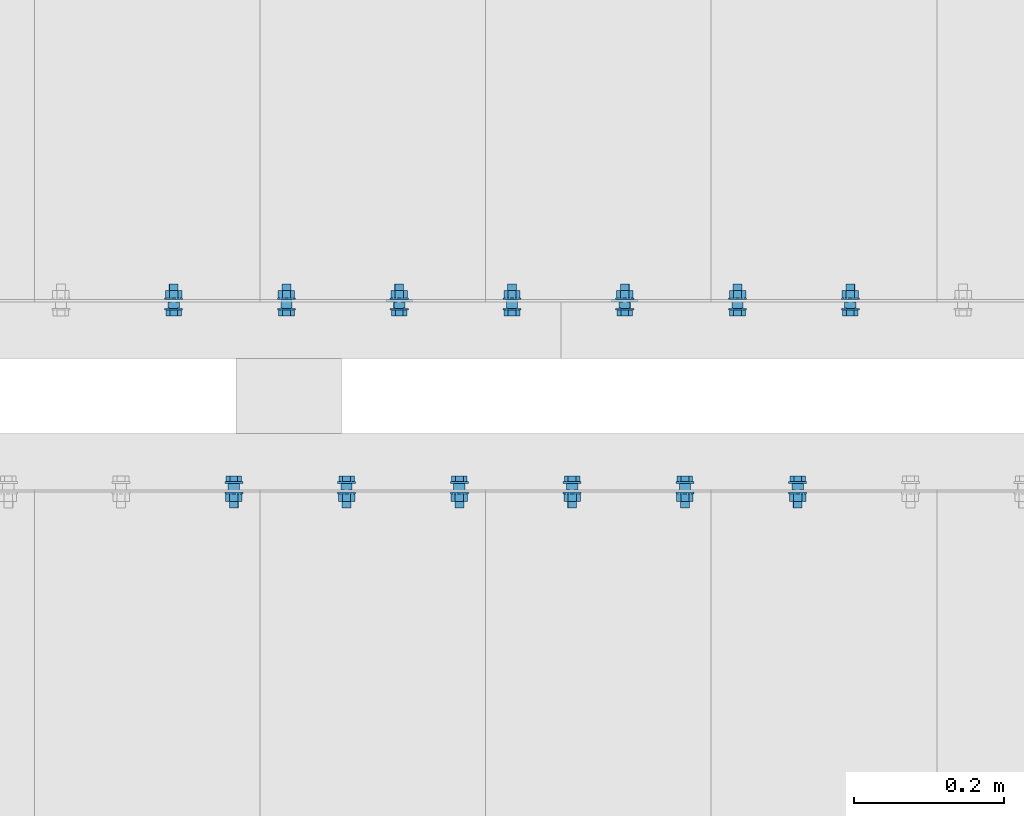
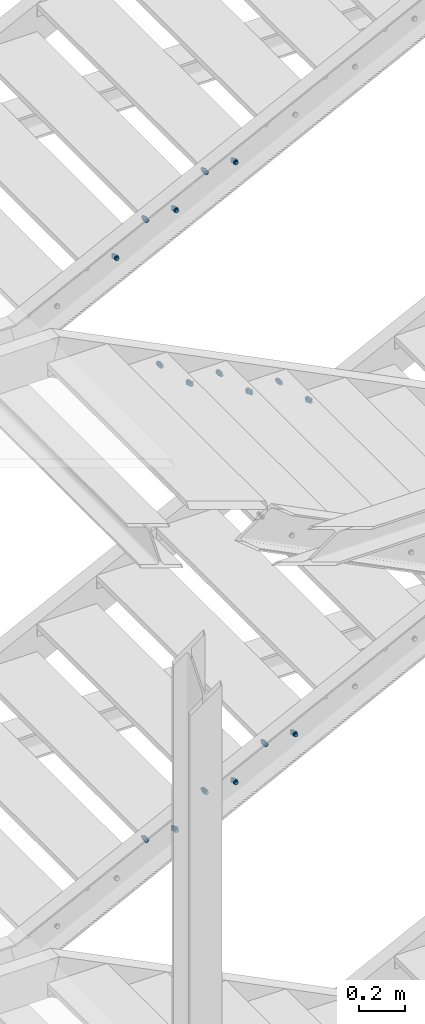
# One storey, part 102 of 132: 17 mechanical fasteners, 10 elements without a shape of their own.
"""IFC2X3 building model written with IfcOpenShell, lengths in millimetres."""

from ifc_helpers import new_model, si_unit, frame, frame_2d, origin_with_axes, origin_2d_with_axis, place, context, subcontext, project, spatial, polyline, circle_curve, parameter, trimmed, segment, composite_curve, circle, outline, extrude, source, transform, mapped, material, type_object, element, aggregate, save


model = new_model("IFC2X3")

# Units and contexts
model_context = context("Model", 3, precision=1e-05, world=origin_with_axes())
body_context = subcontext(model_context, "Body", "Model", "MODEL_VIEW")
ifc_project = project(units=[si_unit("LENGTHUNIT", "METRE", prefix="MILLI"), si_unit("AREAUNIT", "SQUARE_METRE"), si_unit("VOLUMEUNIT", "CUBIC_METRE"), si_unit("MASSUNIT", "GRAM", prefix="KILO"), si_unit("TIMEUNIT", "SECOND"), si_unit("PLANEANGLEUNIT", "RADIAN"), si_unit("SOLIDANGLEUNIT", "STERADIAN"), si_unit("THERMODYNAMICTEMPERATUREUNIT", "DEGREE_CELSIUS"), si_unit("LUMINOUSINTENSITYUNIT", "LUMEN")], contexts=[model_context])

# Site, building, storey
site_placement = place(None, origin_with_axes())
site = spatial("IfcSite", under=ifc_project, at=site_placement, Name="Budowa", CompositionType="ELEMENT")
building_placement = place(site_placement, origin_with_axes())
building = spatial("IfcBuilding", under=site, at=building_placement, Name="Undefined", CompositionType="ELEMENT")
storey_placement = place(building_placement, origin_with_axes())
storey = spatial("IfcBuildingStorey", under=building, at=storey_placement, Name="Undefined", CompositionType="ELEMENT", Elevation=0.0)

# Assembly, mechanical fastener
assembly_1_placement = place(storey_placement, origin_with_axes())
assembly_1 = element("IfcElementAssembly", 1, at=assembly_1_placement, inside=storey, Name="Steel Assembly", AssemblyPlace="NOTDEFINED", PredefinedType="RIGID_FRAME")
ifc_material = material(Name="Undefined")
discrete_accessory_type = type_object("IfcDiscreteAccessoryType", Name="Bolt assembly")
shared_shape_1 = source(origin_with_axes(), body_context, "Body", "SweptSolid", [
    extrude(circle(Radius=7.5, at=origin_2d_with_axis()), frame((0.0, -8.40000000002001, 0.0), z_axis=(0.0, 1.0, 0.0), x_axis=(1.0, 0.0, 0.0)), (0.0, 0.0, 1.0), 8.5),
    extrude(circle(Radius=7.5, at=origin_2d_with_axis()), frame((0.0, -0.1, 0.0), z_axis=(0.0, 1.0, 0.0), x_axis=(1.0, 0.0, 0.0)), (0.0, 0.0, 1.0), 3.1),
    extrude(outline(polyline([(10.39230484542, 0.0), (5.19615242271, 9.00000000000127), (-5.19615242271, 9.00000000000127), (-10.39230484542, 0.0), (-5.19615242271, -9.00000000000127), (5.19615242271, -9.00000000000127), (10.39230484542, 0.0)])), frame((0.0, -18.50000000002, 0.0), z_axis=(0.0, 1.0, 0.0), x_axis=(1.0, 0.0, 0.0)), (0.0, 0.0, 1.0), 7.5),
    extrude(circle(Radius=6.0, at=origin_2d_with_axis()), frame((0.0, -11.00000000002, 0.0), z_axis=(0.0, 1.0, 0.0), x_axis=(1.0, 0.0, 0.0)), (0.0, 0.0, 1.0), 35.0),
    extrude(circle(Radius=12.0, at=origin_2d_with_axis()), frame((0.0, -11.00000000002, 0.0), z_axis=(0.0, 1.0, 0.0), x_axis=(1.0, 0.0, 0.0)), (0.0, 0.0, 1.0), 2.5),
    extrude(circle(Radius=12.0, at=origin_2d_with_axis()), frame((0.0, 3.0, 0.0), z_axis=(0.0, 1.0, 0.0), x_axis=(1.0, 0.0, 0.0)), (0.0, 0.0, 1.0), 2.5),
    extrude(outline(polyline([(10.96965511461, 0.0), (5.484827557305, 9.50000000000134), (-5.484827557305, 9.50000000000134), (-10.96965511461, 0.0), (-5.484827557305, -9.50000000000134), (5.484827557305, -9.50000000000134), (10.96965511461, 0.0)])), frame((0.0, 5.5, 0.0), z_axis=(0.0, 1.0, 0.0), x_axis=(1.0, 0.0, 0.0)), (0.0, 0.0, 1.0), 10.0),
])
mechanical_fastener_1_placement = place(assembly_1_placement, frame((-2920.00000008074, 9525.0000000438, 12799.9999999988), z_axis=(0.0, 0.0, -1.0), x_axis=(-1.0, 0.0, 0.0)))
mechanical_fastener_1 = element("IfcMechanicalFastener", 2, at=mechanical_fastener_1_placement, type_object=discrete_accessory_type, material=ifc_material, Name="Bolt assembly", NominalDiameter=12.0, NominalLength=35.0, context=body_context, shape_type="MappedRepresentation", body=[
    mapped(shared_shape_1, transform((265.0, 0.0, 25.0))),
])

assembly_2_placement = place(storey_placement, origin_with_axes())
assembly_2 = element("IfcElementAssembly", 3, at=assembly_2_placement, inside=storey, Name="Steel Assembly", AssemblyPlace="NOTDEFINED", PredefinedType="RIGID_FRAME")
mechanical_fastener_2_placement = place(assembly_2_placement, frame((-3220.00000008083, 9525.0000000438, 12649.9999999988), z_axis=(0.0, 0.0, -1.0), x_axis=(-1.0, 0.0, 0.0)))
mechanical_fastener_2 = element("IfcMechanicalFastener", 4, at=mechanical_fastener_2_placement, type_object=discrete_accessory_type, material=ifc_material, Name="Bolt assembly", NominalDiameter=12.0, NominalLength=35.0, context=body_context, shape_type="MappedRepresentation", body=[
    mapped(shared_shape_1, transform((265.0, 0.0, 25.0))),
])

assembly_3_placement = place(storey_placement, origin_with_axes())
assembly_3 = element("IfcElementAssembly", 5, at=assembly_3_placement, inside=storey, Name="Steel Assembly", AssemblyPlace="NOTDEFINED", PredefinedType="RIGID_FRAME")
mechanical_fastener_3_placement = place(assembly_3_placement, frame((-3820.00000007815, 9275.00000004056, 12050.0000000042), z_axis=(0.0, 0.0, -1.0), x_axis=(1.0, 0.0, 0.0)))
mechanical_fastener_3 = element("IfcMechanicalFastener", 6, at=mechanical_fastener_3_placement, type_object=discrete_accessory_type, material=ifc_material, Name="Bolt assembly", NominalDiameter=12.0, NominalLength=35.0, context=body_context, shape_type="MappedRepresentation", body=[
    mapped(shared_shape_1, transform((265.0, 0.0, 25.0))),
])
aggregate(assembly_3, [mechanical_fastener_3])

assembly_4_placement = place(storey_placement, origin_with_axes())
assembly_4 = element("IfcElementAssembly", 7, at=assembly_4_placement, inside=storey, Name="Steel Assembly", AssemblyPlace="NOTDEFINED", PredefinedType="RIGID_FRAME")
mechanical_fastener_4_placement = place(assembly_4_placement, frame((-3520.00000007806, 9275.00000004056, 11900.0000000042), z_axis=(0.0, 0.0, -1.0), x_axis=(1.0, 0.0, 0.0)))
mechanical_fastener_4 = element("IfcMechanicalFastener", 8, at=mechanical_fastener_4_placement, type_object=discrete_accessory_type, material=ifc_material, Name="Bolt assembly", NominalDiameter=12.0, NominalLength=35.0, context=body_context, shape_type="MappedRepresentation", body=[
    mapped(shared_shape_1, transform((265.0, 0.0, 25.0))),
])

assembly_5_placement = place(storey_placement, origin_with_axes())
assembly_5 = element("IfcElementAssembly", 9, at=assembly_5_placement, inside=storey, Name="Steel Assembly", AssemblyPlace="NOTDEFINED", PredefinedType="RIGID_FRAME")
mechanical_fastener_5_placement = place(assembly_5_placement, frame((-3220.00000007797, 9275.00000004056, 11750.0000000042), z_axis=(0.0, 0.0, -1.0), x_axis=(1.0, 0.0, 0.0)))
mechanical_fastener_5 = element("IfcMechanicalFastener", 10, at=mechanical_fastener_5_placement, type_object=discrete_accessory_type, material=ifc_material, Name="Bolt assembly", NominalDiameter=12.0, NominalLength=35.0, context=body_context, shape_type="MappedRepresentation", body=[
    mapped(shared_shape_1, transform((265.0, 0.0, 25.0))),
])

assembly_6_placement = place(storey_placement, origin_with_axes())
assembly_6 = element("IfcElementAssembly", 11, at=assembly_6_placement, inside=storey, Name="Steel Assembly", AssemblyPlace="NOTDEFINED", PredefinedType="RIGID_FRAME")
mechanical_fastener_6_placement = place(assembly_6_placement, frame((-2620.00000008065, 9525.0000000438, 9649.99999999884), z_axis=(0.0, 0.0, -1.0), x_axis=(-1.0, 0.0, 0.0)))
mechanical_fastener_6 = element("IfcMechanicalFastener", 12, at=mechanical_fastener_6_placement, type_object=discrete_accessory_type, material=ifc_material, Name="Bolt assembly", NominalDiameter=12.0, NominalLength=35.0, context=body_context, shape_type="MappedRepresentation", body=[
    mapped(shared_shape_1, transform((265.0, 0.0, 25.0))),
])

assembly_7_placement = place(storey_placement, origin_with_axes())
assembly_7 = element("IfcElementAssembly", 13, at=assembly_7_placement, inside=storey, Name="Steel Assembly", AssemblyPlace="NOTDEFINED", PredefinedType="RIGID_FRAME")
mechanical_fastener_7_placement = place(assembly_7_placement, frame((-2920.00000008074, 9525.0000000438, 9499.99999999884), z_axis=(0.0, 0.0, -1.0), x_axis=(-1.0, 0.0, 0.0)))
mechanical_fastener_7 = element("IfcMechanicalFastener", 14, at=mechanical_fastener_7_placement, type_object=discrete_accessory_type, material=ifc_material, Name="Bolt assembly", NominalDiameter=12.0, NominalLength=35.0, context=body_context, shape_type="MappedRepresentation", body=[
    mapped(shared_shape_1, transform((265.0, 0.0, 25.0))),
])

assembly_8_placement = place(storey_placement, origin_with_axes())
assembly_8 = element("IfcElementAssembly", 15, at=assembly_8_placement, inside=storey, Name="Steel Assembly", AssemblyPlace="NOTDEFINED", PredefinedType="RIGID_FRAME")
mechanical_fastener_8_placement = place(assembly_8_placement, frame((-3220.00000008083, 9525.0000000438, 9349.99999999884), z_axis=(0.0, 0.0, -1.0), x_axis=(-1.0, 0.0, 0.0)))
mechanical_fastener_8 = element("IfcMechanicalFastener", 16, at=mechanical_fastener_8_placement, type_object=discrete_accessory_type, material=ifc_material, Name="Bolt assembly", NominalDiameter=12.0, NominalLength=35.0, context=body_context, shape_type="MappedRepresentation", body=[
    mapped(shared_shape_1, transform((265.0, 0.0, 25.0))),
])

# Mechanical fastener
shared_shape_2 = source(origin_with_axes(), body_context, "Body", "SweptSolid", [
    extrude(circle(Radius=7.5, at=origin_2d_with_axis()), frame((0.0, -8.40000000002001, 0.0), z_axis=(0.0, 1.0, 0.0), x_axis=(1.0, 0.0, 0.0)), (0.0, 0.0, 1.0), 8.5),
    extrude(outline(composite_curve([segment(polyline([(-10.0, 7.5), (10.0, 7.5)]), True, "CONTINUOUS"), segment(trimmed(circle_curve(frame_2d((10.0, 0.0), x_axis=(0.0, 1.0)), 7.5), [parameter(0.0)], [parameter(3.14159265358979)], False, "PARAMETER"), True, "CONTINUOUS"), segment(polyline([(10.0, -7.5), (-10.0, -7.5)]), True, "CONTINUOUS"), segment(trimmed(circle_curve(frame_2d((-10.0, 0.0), x_axis=(0.0, -1.0)), 7.5), [parameter(0.0)], [parameter(3.14159265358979)], False, "PARAMETER"), True, "DISCONTINUOUS")], self_intersect=False)), frame((0.0, -0.1, 0.0), z_axis=(0.0, 1.0, 0.0), x_axis=(1.0, 0.0, 0.0)), (0.0, 0.0, 1.0), 3.1),
    extrude(outline(polyline([(10.39230484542, 0.0), (5.19615242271, 9.00000000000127), (-5.19615242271, 9.00000000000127), (-10.39230484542, 0.0), (-5.19615242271, -9.00000000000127), (5.19615242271, -9.00000000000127), (10.39230484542, 0.0)])), frame((0.0, -18.50000000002, 0.0), z_axis=(0.0, 1.0, 0.0), x_axis=(1.0, 0.0, 0.0)), (0.0, 0.0, 1.0), 7.5),
    extrude(circle(Radius=6.0, at=origin_2d_with_axis()), frame((0.0, -11.00000000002, 0.0), z_axis=(0.0, 1.0, 0.0), x_axis=(1.0, 0.0, 0.0)), (0.0, 0.0, 1.0), 35.0),
    extrude(circle(Radius=12.0, at=origin_2d_with_axis()), frame((0.0, -11.00000000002, 0.0), z_axis=(0.0, 1.0, 0.0), x_axis=(1.0, 0.0, 0.0)), (0.0, 0.0, 1.0), 2.5),
    extrude(circle(Radius=12.0, at=origin_2d_with_axis()), frame((0.0, 3.0, 0.0), z_axis=(0.0, 1.0, 0.0), x_axis=(1.0, 0.0, 0.0)), (0.0, 0.0, 1.0), 2.5),
    extrude(outline(polyline([(10.96965511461, 0.0), (5.484827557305, 9.50000000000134), (-5.484827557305, 9.50000000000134), (-10.96965511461, 0.0), (-5.484827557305, -9.50000000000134), (5.484827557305, -9.50000000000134), (10.96965511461, 0.0)])), frame((0.0, 5.5, 0.0), z_axis=(0.0, 1.0, 0.0), x_axis=(1.0, 0.0, 0.0)), (0.0, 0.0, 1.0), 10.0),
])
mechanical_fastener_9_placement = place(assembly_1_placement, frame((-2920.00000008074, 9525.0000000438, 12799.9999999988), z_axis=(0.0, 0.0, -1.0), x_axis=(-1.0, 0.0, 0.0)))
mechanical_fastener_9 = element("IfcMechanicalFastener", 17, at=mechanical_fastener_9_placement, type_object=discrete_accessory_type, material=ifc_material, Name="Bolt assembly", NominalDiameter=12.0, NominalLength=35.0, context=body_context, shape_type="MappedRepresentation", body=[
    mapped(shared_shape_2, transform((115.0, 0.0, 25.0))),
])

aggregate(assembly_1, [mechanical_fastener_9, mechanical_fastener_1])

shared_shape_3 = source(origin_with_axes(), body_context, "Body", "SweptSolid", [
    extrude(circle(Radius=7.5, at=origin_2d_with_axis()), frame((0.0, -8.40000000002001, 0.0), z_axis=(0.0, 1.0, 0.0), x_axis=(1.0, 0.0, 0.0)), (0.0, 0.0, 1.0), 8.5),
    extrude(outline(composite_curve([segment(polyline([(-10.0, 7.5), (10.0, 7.5)]), True, "CONTINUOUS"), segment(trimmed(circle_curve(frame_2d((10.0, 0.0), x_axis=(0.0, 1.0)), 7.5), [parameter(0.0)], [parameter(3.14159265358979)], False, "PARAMETER"), True, "CONTINUOUS"), segment(polyline([(10.0, -7.5), (-10.0, -7.5)]), True, "CONTINUOUS"), segment(trimmed(circle_curve(frame_2d((-10.0, 0.0), x_axis=(0.0, -1.0)), 7.5), [parameter(0.0)], [parameter(3.14159265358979)], False, "PARAMETER"), True, "DISCONTINUOUS")], self_intersect=False)), frame((0.0, -0.1, 0.0), z_axis=(0.0, 1.0, 0.0), x_axis=(1.0, 0.0, 0.0)), (0.0, 0.0, 1.0), 3.1),
    extrude(outline(polyline([(10.39230484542, 0.0), (5.19615242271, 9.00000000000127), (-5.19615242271, 9.00000000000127), (-10.39230484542, 0.0), (-5.19615242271, -9.00000000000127), (5.19615242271, -9.00000000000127), (10.39230484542, 0.0)])), frame((0.0, -18.50000000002, 0.0), z_axis=(0.0, 1.0, 0.0), x_axis=(1.0, 0.0, 0.0)), (0.0, 0.0, 1.0), 7.5),
    extrude(circle(Radius=6.0, at=origin_2d_with_axis()), frame((0.0, -11.00000000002, 0.0), z_axis=(0.0, 1.0, 0.0), x_axis=(1.0, 0.0, 0.0)), (0.0, 0.0, 1.0), 35.0),
    extrude(circle(Radius=12.0, at=origin_2d_with_axis()), frame((0.0, -11.00000000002, 0.0), z_axis=(0.0, 1.0, 0.0), x_axis=(1.0, 0.0, 0.0)), (0.0, 0.0, 1.0), 2.5),
    extrude(circle(Radius=12.0, at=origin_2d_with_axis()), frame((0.0, 3.0, 0.0), z_axis=(0.0, 1.0, 0.0), x_axis=(1.0, 0.0, 0.0)), (0.0, 0.0, 1.0), 2.5),
    extrude(outline(polyline([(10.96965511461, 0.0), (5.484827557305, 9.50000000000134), (-5.484827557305, 9.50000000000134), (-10.96965511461, 0.0), (-5.484827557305, -9.50000000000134), (5.484827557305, -9.50000000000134), (10.96965511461, 0.0)])), frame((0.0, 5.5, 0.0), z_axis=(0.0, 1.0, 0.0), x_axis=(1.0, 0.0, 0.0)), (0.0, 0.0, 1.0), 10.0),
])
mechanical_fastener_10_placement = place(assembly_2_placement, frame((-3220.00000008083, 9525.0000000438, 12649.9999999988), z_axis=(0.0, 0.0, -1.0), x_axis=(-1.0, 0.0, 0.0)))
mechanical_fastener_10 = element("IfcMechanicalFastener", 18, at=mechanical_fastener_10_placement, type_object=discrete_accessory_type, material=ifc_material, Name="Bolt assembly", NominalDiameter=12.0, NominalLength=35.0, context=body_context, shape_type="MappedRepresentation", body=[
    mapped(shared_shape_3, transform((115.0, 0.0, 25.0))),
])

aggregate(assembly_2, [mechanical_fastener_10, mechanical_fastener_2])

# Assembly, mechanical fastener
assembly_9_placement = place(storey_placement, origin_with_axes())
assembly_9 = element("IfcElementAssembly", 19, at=assembly_9_placement, inside=storey, Name="Steel Assembly", AssemblyPlace="NOTDEFINED", PredefinedType="RIGID_FRAME")
shared_shape_4 = source(origin_with_axes(), body_context, "Body", "SweptSolid", [
    extrude(circle(Radius=7.5, at=origin_2d_with_axis()), frame((0.0, -8.40000000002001, 0.0), z_axis=(0.0, 1.0, 0.0), x_axis=(1.0, 0.0, 0.0)), (0.0, 0.0, 1.0), 8.5),
    extrude(outline(composite_curve([segment(polyline([(-10.0, 7.5), (10.0, 7.5)]), True, "CONTINUOUS"), segment(trimmed(circle_curve(frame_2d((10.0, 0.0), x_axis=(0.0, 1.0)), 7.5), [parameter(0.0)], [parameter(3.14159265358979)], False, "PARAMETER"), True, "CONTINUOUS"), segment(polyline([(10.0, -7.5), (-10.0, -7.5)]), True, "CONTINUOUS"), segment(trimmed(circle_curve(frame_2d((-10.0, 0.0), x_axis=(0.0, -1.0)), 7.5), [parameter(0.0)], [parameter(3.14159265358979)], False, "PARAMETER"), True, "DISCONTINUOUS")], self_intersect=False)), frame((0.0, -0.1, 0.0), z_axis=(0.0, 1.0, 0.0), x_axis=(1.0, 0.0, 0.0)), (0.0, 0.0, 1.0), 3.1),
    extrude(outline(polyline([(10.39230484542, 0.0), (5.19615242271, 9.00000000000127), (-5.19615242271, 9.00000000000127), (-10.39230484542, 0.0), (-5.19615242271, -9.00000000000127), (5.19615242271, -9.00000000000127), (10.39230484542, 0.0)])), frame((0.0, -18.50000000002, 0.0), z_axis=(0.0, 1.0, 0.0), x_axis=(1.0, 0.0, 0.0)), (0.0, 0.0, 1.0), 7.5),
    extrude(circle(Radius=6.0, at=origin_2d_with_axis()), frame((0.0, -11.00000000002, 0.0), z_axis=(0.0, 1.0, 0.0), x_axis=(1.0, 0.0, 0.0)), (0.0, 0.0, 1.0), 35.0),
    extrude(circle(Radius=12.0, at=origin_2d_with_axis()), frame((0.0, -11.00000000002, 0.0), z_axis=(0.0, 1.0, 0.0), x_axis=(1.0, 0.0, 0.0)), (0.0, 0.0, 1.0), 2.5),
    extrude(circle(Radius=12.0, at=origin_2d_with_axis()), frame((0.0, 3.0, 0.0), z_axis=(0.0, 1.0, 0.0), x_axis=(1.0, 0.0, 0.0)), (0.0, 0.0, 1.0), 2.5),
    extrude(outline(polyline([(10.96965511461, 0.0), (5.484827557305, 9.50000000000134), (-5.484827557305, 9.50000000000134), (-10.96965511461, 0.0), (-5.484827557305, -9.50000000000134), (5.484827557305, -9.50000000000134), (10.96965511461, 0.0)])), frame((0.0, 5.5, 0.0), z_axis=(0.0, 1.0, 0.0), x_axis=(1.0, 0.0, 0.0)), (0.0, 0.0, 1.0), 10.0),
])
mechanical_fastener_11_placement = place(assembly_9_placement, frame((-3520.00000008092, 9525.0000000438, 12499.9999999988), z_axis=(0.0, 0.0, -1.0), x_axis=(-1.0, 0.0, 0.0)))
mechanical_fastener_11 = element("IfcMechanicalFastener", 20, at=mechanical_fastener_11_placement, type_object=discrete_accessory_type, material=ifc_material, Name="Bolt assembly", NominalDiameter=12.0, NominalLength=35.0, context=body_context, shape_type="MappedRepresentation", body=[
    mapped(shared_shape_4, transform((115.0, 0.0, 25.0))),
])
aggregate(assembly_9, [mechanical_fastener_11])

# Mechanical fastener
shared_shape_5 = source(origin_with_axes(), body_context, "Body", "SweptSolid", [
    extrude(circle(Radius=7.5, at=origin_2d_with_axis()), frame((0.0, -8.40000000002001, 0.0), z_axis=(0.0, 1.0, 0.0), x_axis=(1.0, 0.0, 0.0)), (0.0, 0.0, 1.0), 8.5),
    extrude(outline(composite_curve([segment(polyline([(-10.0, 7.5), (10.0, 7.5)]), True, "CONTINUOUS"), segment(trimmed(circle_curve(frame_2d((10.0, 0.0), x_axis=(0.0, 1.0)), 7.5), [parameter(0.0)], [parameter(3.14159265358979)], False, "PARAMETER"), True, "CONTINUOUS"), segment(polyline([(10.0, -7.5), (-10.0, -7.5)]), True, "CONTINUOUS"), segment(trimmed(circle_curve(frame_2d((-10.0, 0.0), x_axis=(0.0, -1.0)), 7.5), [parameter(0.0)], [parameter(3.14159265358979)], False, "PARAMETER"), True, "DISCONTINUOUS")], self_intersect=False)), frame((0.0, -0.1, 0.0), z_axis=(0.0, 1.0, 0.0), x_axis=(1.0, 0.0, 0.0)), (0.0, 0.0, 1.0), 3.1),
    extrude(outline(polyline([(10.39230484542, 0.0), (5.19615242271, 9.00000000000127), (-5.19615242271, 9.00000000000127), (-10.39230484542, 0.0), (-5.19615242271, -9.00000000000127), (5.19615242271, -9.00000000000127), (10.39230484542, 0.0)])), frame((0.0, -18.50000000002, 0.0), z_axis=(0.0, 1.0, 0.0), x_axis=(1.0, 0.0, 0.0)), (0.0, 0.0, 1.0), 7.5),
    extrude(circle(Radius=6.0, at=origin_2d_with_axis()), frame((0.0, -11.00000000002, 0.0), z_axis=(0.0, 1.0, 0.0), x_axis=(1.0, 0.0, 0.0)), (0.0, 0.0, 1.0), 35.0),
    extrude(circle(Radius=12.0, at=origin_2d_with_axis()), frame((0.0, -11.00000000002, 0.0), z_axis=(0.0, 1.0, 0.0), x_axis=(1.0, 0.0, 0.0)), (0.0, 0.0, 1.0), 2.5),
    extrude(circle(Radius=12.0, at=origin_2d_with_axis()), frame((0.0, 3.0, 0.0), z_axis=(0.0, 1.0, 0.0), x_axis=(1.0, 0.0, 0.0)), (0.0, 0.0, 1.0), 2.5),
    extrude(outline(polyline([(10.96965511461, 0.0), (5.484827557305, 9.50000000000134), (-5.484827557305, 9.50000000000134), (-10.96965511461, 0.0), (-5.484827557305, -9.50000000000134), (5.484827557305, -9.50000000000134), (10.96965511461, 0.0)])), frame((0.0, 5.5, 0.0), z_axis=(0.0, 1.0, 0.0), x_axis=(1.0, 0.0, 0.0)), (0.0, 0.0, 1.0), 10.0),
])
mechanical_fastener_12_placement = place(assembly_4_placement, frame((-3520.00000007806, 9275.00000004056, 11900.0000000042), z_axis=(0.0, 0.0, -1.0), x_axis=(1.0, 0.0, 0.0)))
mechanical_fastener_12 = element("IfcMechanicalFastener", 21, at=mechanical_fastener_12_placement, type_object=discrete_accessory_type, material=ifc_material, Name="Bolt assembly", NominalDiameter=12.0, NominalLength=35.0, context=body_context, shape_type="MappedRepresentation", body=[
    mapped(shared_shape_5, transform((115.0, 0.0, 25.0))),
])

aggregate(assembly_4, [mechanical_fastener_12, mechanical_fastener_4])

shared_shape_6 = source(origin_with_axes(), body_context, "Body", "SweptSolid", [
    extrude(circle(Radius=7.5, at=origin_2d_with_axis()), frame((0.0, -8.40000000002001, 0.0), z_axis=(0.0, 1.0, 0.0), x_axis=(1.0, 0.0, 0.0)), (0.0, 0.0, 1.0), 8.5),
    extrude(outline(composite_curve([segment(polyline([(-10.0, 7.5), (10.0, 7.5)]), True, "CONTINUOUS"), segment(trimmed(circle_curve(frame_2d((10.0, 0.0), x_axis=(0.0, 1.0)), 7.5), [parameter(0.0)], [parameter(3.14159265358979)], False, "PARAMETER"), True, "CONTINUOUS"), segment(polyline([(10.0, -7.5), (-10.0, -7.5)]), True, "CONTINUOUS"), segment(trimmed(circle_curve(frame_2d((-10.0, 0.0), x_axis=(0.0, -1.0)), 7.5), [parameter(0.0)], [parameter(3.14159265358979)], False, "PARAMETER"), True, "DISCONTINUOUS")], self_intersect=False)), frame((0.0, -0.1, 0.0), z_axis=(0.0, 1.0, 0.0), x_axis=(1.0, 0.0, 0.0)), (0.0, 0.0, 1.0), 3.1),
    extrude(outline(polyline([(10.39230484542, 0.0), (5.19615242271, 9.00000000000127), (-5.19615242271, 9.00000000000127), (-10.39230484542, 0.0), (-5.19615242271, -9.00000000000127), (5.19615242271, -9.00000000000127), (10.39230484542, 0.0)])), frame((0.0, -18.50000000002, 0.0), z_axis=(0.0, 1.0, 0.0), x_axis=(1.0, 0.0, 0.0)), (0.0, 0.0, 1.0), 7.5),
    extrude(circle(Radius=6.0, at=origin_2d_with_axis()), frame((0.0, -11.00000000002, 0.0), z_axis=(0.0, 1.0, 0.0), x_axis=(1.0, 0.0, 0.0)), (0.0, 0.0, 1.0), 35.0),
    extrude(circle(Radius=12.0, at=origin_2d_with_axis()), frame((0.0, -11.00000000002, 0.0), z_axis=(0.0, 1.0, 0.0), x_axis=(1.0, 0.0, 0.0)), (0.0, 0.0, 1.0), 2.5),
    extrude(circle(Radius=12.0, at=origin_2d_with_axis()), frame((0.0, 3.0, 0.0), z_axis=(0.0, 1.0, 0.0), x_axis=(1.0, 0.0, 0.0)), (0.0, 0.0, 1.0), 2.5),
    extrude(outline(polyline([(10.96965511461, 0.0), (5.484827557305, 9.50000000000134), (-5.484827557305, 9.50000000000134), (-10.96965511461, 0.0), (-5.484827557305, -9.50000000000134), (5.484827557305, -9.50000000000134), (10.96965511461, 0.0)])), frame((0.0, 5.5, 0.0), z_axis=(0.0, 1.0, 0.0), x_axis=(1.0, 0.0, 0.0)), (0.0, 0.0, 1.0), 10.0),
])
mechanical_fastener_13_placement = place(assembly_5_placement, frame((-3220.00000007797, 9275.00000004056, 11750.0000000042), z_axis=(0.0, 0.0, -1.0), x_axis=(1.0, 0.0, 0.0)))
mechanical_fastener_13 = element("IfcMechanicalFastener", 22, at=mechanical_fastener_13_placement, type_object=discrete_accessory_type, material=ifc_material, Name="Bolt assembly", NominalDiameter=12.0, NominalLength=35.0, context=body_context, shape_type="MappedRepresentation", body=[
    mapped(shared_shape_6, transform((115.0, 0.0, 25.0))),
])

aggregate(assembly_5, [mechanical_fastener_13, mechanical_fastener_5])

# Assembly, mechanical fastener
assembly_10_placement = place(storey_placement, origin_with_axes())
assembly_10 = element("IfcElementAssembly", 23, at=assembly_10_placement, inside=storey, Name="Steel Assembly", AssemblyPlace="NOTDEFINED", PredefinedType="RIGID_FRAME")
shared_shape_7 = source(origin_with_axes(), body_context, "Body", "SweptSolid", [
    extrude(circle(Radius=7.5, at=origin_2d_with_axis()), frame((0.0, -8.40000000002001, 0.0), z_axis=(0.0, 1.0, 0.0), x_axis=(1.0, 0.0, 0.0)), (0.0, 0.0, 1.0), 8.5),
    extrude(outline(composite_curve([segment(polyline([(-10.0, 7.5), (10.0, 7.5)]), True, "CONTINUOUS"), segment(trimmed(circle_curve(frame_2d((10.0, 0.0), x_axis=(0.0, 1.0)), 7.5), [parameter(0.0)], [parameter(3.14159265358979)], False, "PARAMETER"), True, "CONTINUOUS"), segment(polyline([(10.0, -7.5), (-10.0, -7.5)]), True, "CONTINUOUS"), segment(trimmed(circle_curve(frame_2d((-10.0, 0.0), x_axis=(0.0, -1.0)), 7.5), [parameter(0.0)], [parameter(3.14159265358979)], False, "PARAMETER"), True, "DISCONTINUOUS")], self_intersect=False)), frame((0.0, -0.1, 0.0), z_axis=(0.0, 1.0, 0.0), x_axis=(1.0, 0.0, 0.0)), (0.0, 0.0, 1.0), 3.1),
    extrude(outline(polyline([(10.39230484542, 0.0), (5.19615242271, 9.00000000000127), (-5.19615242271, 9.00000000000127), (-10.39230484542, 0.0), (-5.19615242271, -9.00000000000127), (5.19615242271, -9.00000000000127), (10.39230484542, 0.0)])), frame((0.0, -18.50000000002, 0.0), z_axis=(0.0, 1.0, 0.0), x_axis=(1.0, 0.0, 0.0)), (0.0, 0.0, 1.0), 7.5),
    extrude(circle(Radius=6.0, at=origin_2d_with_axis()), frame((0.0, -11.00000000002, 0.0), z_axis=(0.0, 1.0, 0.0), x_axis=(1.0, 0.0, 0.0)), (0.0, 0.0, 1.0), 35.0),
    extrude(circle(Radius=12.0, at=origin_2d_with_axis()), frame((0.0, -11.00000000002, 0.0), z_axis=(0.0, 1.0, 0.0), x_axis=(1.0, 0.0, 0.0)), (0.0, 0.0, 1.0), 2.5),
    extrude(circle(Radius=12.0, at=origin_2d_with_axis()), frame((0.0, 3.0, 0.0), z_axis=(0.0, 1.0, 0.0), x_axis=(1.0, 0.0, 0.0)), (0.0, 0.0, 1.0), 2.5),
    extrude(outline(polyline([(10.96965511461, 0.0), (5.484827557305, 9.50000000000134), (-5.484827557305, 9.50000000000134), (-10.96965511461, 0.0), (-5.484827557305, -9.50000000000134), (5.484827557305, -9.50000000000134), (10.96965511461, 0.0)])), frame((0.0, 5.5, 0.0), z_axis=(0.0, 1.0, 0.0), x_axis=(1.0, 0.0, 0.0)), (0.0, 0.0, 1.0), 10.0),
])
mechanical_fastener_14_placement = place(assembly_10_placement, frame((-2920.00000007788, 9275.00000004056, 11600.0000000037), z_axis=(0.0, 0.0, -1.0), x_axis=(1.0, 0.0, 0.0)))
mechanical_fastener_14 = element("IfcMechanicalFastener", 24, at=mechanical_fastener_14_placement, type_object=discrete_accessory_type, material=ifc_material, Name="Bolt assembly", NominalDiameter=12.0, NominalLength=35.0, context=body_context, shape_type="MappedRepresentation", body=[
    mapped(shared_shape_7, transform((115.0, 0.0, 25.0))),
])
aggregate(assembly_10, [mechanical_fastener_14])

# Mechanical fastener
shared_shape_8 = source(origin_with_axes(), body_context, "Body", "SweptSolid", [
    extrude(circle(Radius=7.5, at=origin_2d_with_axis()), frame((0.0, -8.40000000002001, 0.0), z_axis=(0.0, 1.0, 0.0), x_axis=(1.0, 0.0, 0.0)), (0.0, 0.0, 1.0), 8.5),
    extrude(outline(composite_curve([segment(polyline([(-10.0, 7.5), (10.0, 7.5)]), True, "CONTINUOUS"), segment(trimmed(circle_curve(frame_2d((10.0, 0.0), x_axis=(0.0, 1.0)), 7.5), [parameter(0.0)], [parameter(3.14159265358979)], False, "PARAMETER"), True, "CONTINUOUS"), segment(polyline([(10.0, -7.5), (-10.0, -7.5)]), True, "CONTINUOUS"), segment(trimmed(circle_curve(frame_2d((-10.0, 0.0), x_axis=(0.0, -1.0)), 7.5), [parameter(0.0)], [parameter(3.14159265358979)], False, "PARAMETER"), True, "DISCONTINUOUS")], self_intersect=False)), frame((0.0, -0.1, 0.0), z_axis=(0.0, 1.0, 0.0), x_axis=(1.0, 0.0, 0.0)), (0.0, 0.0, 1.0), 3.1),
    extrude(outline(polyline([(10.39230484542, 0.0), (5.19615242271, 9.00000000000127), (-5.19615242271, 9.00000000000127), (-10.39230484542, 0.0), (-5.19615242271, -9.00000000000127), (5.19615242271, -9.00000000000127), (10.39230484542, 0.0)])), frame((0.0, -18.50000000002, 0.0), z_axis=(0.0, 1.0, 0.0), x_axis=(1.0, 0.0, 0.0)), (0.0, 0.0, 1.0), 7.5),
    extrude(circle(Radius=6.0, at=origin_2d_with_axis()), frame((0.0, -11.00000000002, 0.0), z_axis=(0.0, 1.0, 0.0), x_axis=(1.0, 0.0, 0.0)), (0.0, 0.0, 1.0), 35.0),
    extrude(circle(Radius=12.0, at=origin_2d_with_axis()), frame((0.0, -11.00000000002, 0.0), z_axis=(0.0, 1.0, 0.0), x_axis=(1.0, 0.0, 0.0)), (0.0, 0.0, 1.0), 2.5),
    extrude(circle(Radius=12.0, at=origin_2d_with_axis()), frame((0.0, 3.0, 0.0), z_axis=(0.0, 1.0, 0.0), x_axis=(1.0, 0.0, 0.0)), (0.0, 0.0, 1.0), 2.5),
    extrude(outline(polyline([(10.96965511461, 0.0), (5.484827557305, 9.50000000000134), (-5.484827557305, 9.50000000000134), (-10.96965511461, 0.0), (-5.484827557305, -9.50000000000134), (5.484827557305, -9.50000000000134), (10.96965511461, 0.0)])), frame((0.0, 5.5, 0.0), z_axis=(0.0, 1.0, 0.0), x_axis=(1.0, 0.0, 0.0)), (0.0, 0.0, 1.0), 10.0),
])
mechanical_fastener_15_placement = place(assembly_6_placement, frame((-2620.00000008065, 9525.0000000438, 9649.99999999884), z_axis=(0.0, 0.0, -1.0), x_axis=(-1.0, 0.0, 0.0)))
mechanical_fastener_15 = element("IfcMechanicalFastener", 25, at=mechanical_fastener_15_placement, type_object=discrete_accessory_type, material=ifc_material, Name="Bolt assembly", NominalDiameter=12.0, NominalLength=35.0, context=body_context, shape_type="MappedRepresentation", body=[
    mapped(shared_shape_8, transform((115.0, 0.0, 25.0))),
])

aggregate(assembly_6, [mechanical_fastener_15, mechanical_fastener_6])

shared_shape_9 = source(origin_with_axes(), body_context, "Body", "SweptSolid", [
    extrude(circle(Radius=7.5, at=origin_2d_with_axis()), frame((0.0, -8.40000000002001, 0.0), z_axis=(0.0, 1.0, 0.0), x_axis=(1.0, 0.0, 0.0)), (0.0, 0.0, 1.0), 8.5),
    extrude(outline(composite_curve([segment(polyline([(-10.0, 7.5), (10.0, 7.5)]), True, "CONTINUOUS"), segment(trimmed(circle_curve(frame_2d((10.0, 0.0), x_axis=(0.0, 1.0)), 7.5), [parameter(0.0)], [parameter(3.14159265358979)], False, "PARAMETER"), True, "CONTINUOUS"), segment(polyline([(10.0, -7.5), (-10.0, -7.5)]), True, "CONTINUOUS"), segment(trimmed(circle_curve(frame_2d((-10.0, 0.0), x_axis=(0.0, -1.0)), 7.5), [parameter(0.0)], [parameter(3.14159265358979)], False, "PARAMETER"), True, "DISCONTINUOUS")], self_intersect=False)), frame((0.0, -0.1, 0.0), z_axis=(0.0, 1.0, 0.0), x_axis=(1.0, 0.0, 0.0)), (0.0, 0.0, 1.0), 3.1),
    extrude(outline(polyline([(10.39230484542, 0.0), (5.19615242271, 9.00000000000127), (-5.19615242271, 9.00000000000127), (-10.39230484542, 0.0), (-5.19615242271, -9.00000000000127), (5.19615242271, -9.00000000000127), (10.39230484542, 0.0)])), frame((0.0, -18.50000000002, 0.0), z_axis=(0.0, 1.0, 0.0), x_axis=(1.0, 0.0, 0.0)), (0.0, 0.0, 1.0), 7.5),
    extrude(circle(Radius=6.0, at=origin_2d_with_axis()), frame((0.0, -11.00000000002, 0.0), z_axis=(0.0, 1.0, 0.0), x_axis=(1.0, 0.0, 0.0)), (0.0, 0.0, 1.0), 35.0),
    extrude(circle(Radius=12.0, at=origin_2d_with_axis()), frame((0.0, -11.00000000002, 0.0), z_axis=(0.0, 1.0, 0.0), x_axis=(1.0, 0.0, 0.0)), (0.0, 0.0, 1.0), 2.5),
    extrude(circle(Radius=12.0, at=origin_2d_with_axis()), frame((0.0, 3.0, 0.0), z_axis=(0.0, 1.0, 0.0), x_axis=(1.0, 0.0, 0.0)), (0.0, 0.0, 1.0), 2.5),
    extrude(outline(polyline([(10.96965511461, 0.0), (5.484827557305, 9.50000000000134), (-5.484827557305, 9.50000000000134), (-10.96965511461, 0.0), (-5.484827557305, -9.50000000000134), (5.484827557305, -9.50000000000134), (10.96965511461, 0.0)])), frame((0.0, 5.5, 0.0), z_axis=(0.0, 1.0, 0.0), x_axis=(1.0, 0.0, 0.0)), (0.0, 0.0, 1.0), 10.0),
])
mechanical_fastener_16_placement = place(assembly_7_placement, frame((-2920.00000008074, 9525.0000000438, 9499.99999999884), z_axis=(0.0, 0.0, -1.0), x_axis=(-1.0, 0.0, 0.0)))
mechanical_fastener_16 = element("IfcMechanicalFastener", 26, at=mechanical_fastener_16_placement, type_object=discrete_accessory_type, material=ifc_material, Name="Bolt assembly", NominalDiameter=12.0, NominalLength=35.0, context=body_context, shape_type="MappedRepresentation", body=[
    mapped(shared_shape_9, transform((115.0, 0.0, 25.0))),
])

aggregate(assembly_7, [mechanical_fastener_16, mechanical_fastener_7])

shared_shape_10 = source(origin_with_axes(), body_context, "Body", "SweptSolid", [
    extrude(circle(Radius=7.5, at=origin_2d_with_axis()), frame((0.0, -8.40000000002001, 0.0), z_axis=(0.0, 1.0, 0.0), x_axis=(1.0, 0.0, 0.0)), (0.0, 0.0, 1.0), 8.5),
    extrude(outline(composite_curve([segment(polyline([(-10.0, 7.5), (10.0, 7.5)]), True, "CONTINUOUS"), segment(trimmed(circle_curve(frame_2d((10.0, 0.0), x_axis=(0.0, 1.0)), 7.5), [parameter(0.0)], [parameter(3.14159265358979)], False, "PARAMETER"), True, "CONTINUOUS"), segment(polyline([(10.0, -7.5), (-10.0, -7.5)]), True, "CONTINUOUS"), segment(trimmed(circle_curve(frame_2d((-10.0, 0.0), x_axis=(0.0, -1.0)), 7.5), [parameter(0.0)], [parameter(3.14159265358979)], False, "PARAMETER"), True, "DISCONTINUOUS")], self_intersect=False)), frame((0.0, -0.1, 0.0), z_axis=(0.0, 1.0, 0.0), x_axis=(1.0, 0.0, 0.0)), (0.0, 0.0, 1.0), 3.1),
    extrude(outline(polyline([(10.39230484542, 0.0), (5.19615242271, 9.00000000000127), (-5.19615242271, 9.00000000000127), (-10.39230484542, 0.0), (-5.19615242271, -9.00000000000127), (5.19615242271, -9.00000000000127), (10.39230484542, 0.0)])), frame((0.0, -18.50000000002, 0.0), z_axis=(0.0, 1.0, 0.0), x_axis=(1.0, 0.0, 0.0)), (0.0, 0.0, 1.0), 7.5),
    extrude(circle(Radius=6.0, at=origin_2d_with_axis()), frame((0.0, -11.00000000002, 0.0), z_axis=(0.0, 1.0, 0.0), x_axis=(1.0, 0.0, 0.0)), (0.0, 0.0, 1.0), 35.0),
    extrude(circle(Radius=12.0, at=origin_2d_with_axis()), frame((0.0, -11.00000000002, 0.0), z_axis=(0.0, 1.0, 0.0), x_axis=(1.0, 0.0, 0.0)), (0.0, 0.0, 1.0), 2.5),
    extrude(circle(Radius=12.0, at=origin_2d_with_axis()), frame((0.0, 3.0, 0.0), z_axis=(0.0, 1.0, 0.0), x_axis=(1.0, 0.0, 0.0)), (0.0, 0.0, 1.0), 2.5),
    extrude(outline(polyline([(10.96965511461, 0.0), (5.484827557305, 9.50000000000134), (-5.484827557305, 9.50000000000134), (-10.96965511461, 0.0), (-5.484827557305, -9.50000000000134), (5.484827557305, -9.50000000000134), (10.96965511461, 0.0)])), frame((0.0, 5.5, 0.0), z_axis=(0.0, 1.0, 0.0), x_axis=(1.0, 0.0, 0.0)), (0.0, 0.0, 1.0), 10.0),
])
mechanical_fastener_17_placement = place(assembly_8_placement, frame((-3220.00000008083, 9525.0000000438, 9349.99999999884), z_axis=(0.0, 0.0, -1.0), x_axis=(-1.0, 0.0, 0.0)))
mechanical_fastener_17 = element("IfcMechanicalFastener", 27, at=mechanical_fastener_17_placement, type_object=discrete_accessory_type, material=ifc_material, Name="Bolt assembly", NominalDiameter=12.0, NominalLength=35.0, context=body_context, shape_type="MappedRepresentation", body=[
    mapped(shared_shape_10, transform((115.0, 0.0, 25.0))),
])

aggregate(assembly_8, [mechanical_fastener_17, mechanical_fastener_8])

save(model, "model.ifc")
